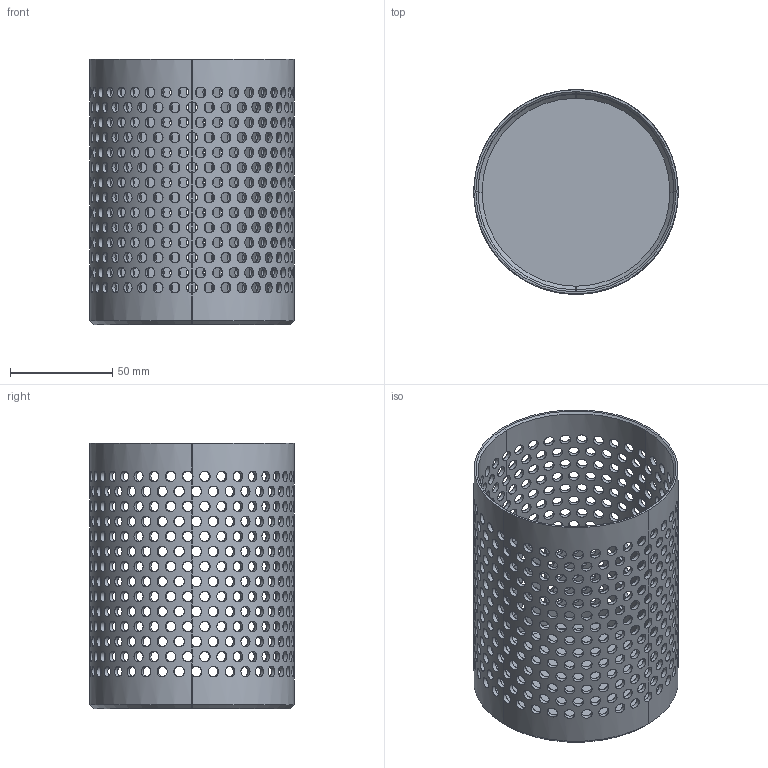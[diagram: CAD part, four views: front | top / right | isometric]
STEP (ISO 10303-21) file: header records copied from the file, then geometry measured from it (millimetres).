
FILE_DESCRIPTION(/* description */ (''),/* implementation_level */ '2;1');
FILE_NAME(/* name */ 'Box 10x10x13 - Round.step',/* time_stamp */ '2024-01-01T14:09:46+01:00',/* author */ (''),/* organization */ (''),/* preprocessor_version */ 'ST-DEVELOPER v20',/* originating_system */ 'Autodesk Translation Framework v12.14.0.127',/* authorisation */ '');
FILE_SCHEMA (('AUTOMOTIVE_DESIGN { 1 0 10303 214 3 1 1 }'));
Products named in the file (1): Box Holes
Bounding box: 100 x 100 x 130 mm (x, y, z)
Volume: 72301.3 mm3; surface area: 89169.5 mm2
Topology: 1 solids, 1 shells, 645 faces, 3498 edges, 2772 vertices
Faces by surface type: cylinder 526, plane 107, cone 12
Full cylindrical faces by diameter (mm): 5.2 x518
Entity records: 76012 total; most frequent: CARTESIAN_POINT 50684, ORIENTED_EDGE 6996, EDGE_CURVE 3498, VERTEX_POINT 2772, B_SPLINE_CURVE_WITH_KNOTS 2548, DIRECTION 2438, EDGE_LOOP 1598, FACE_BOUND 953
